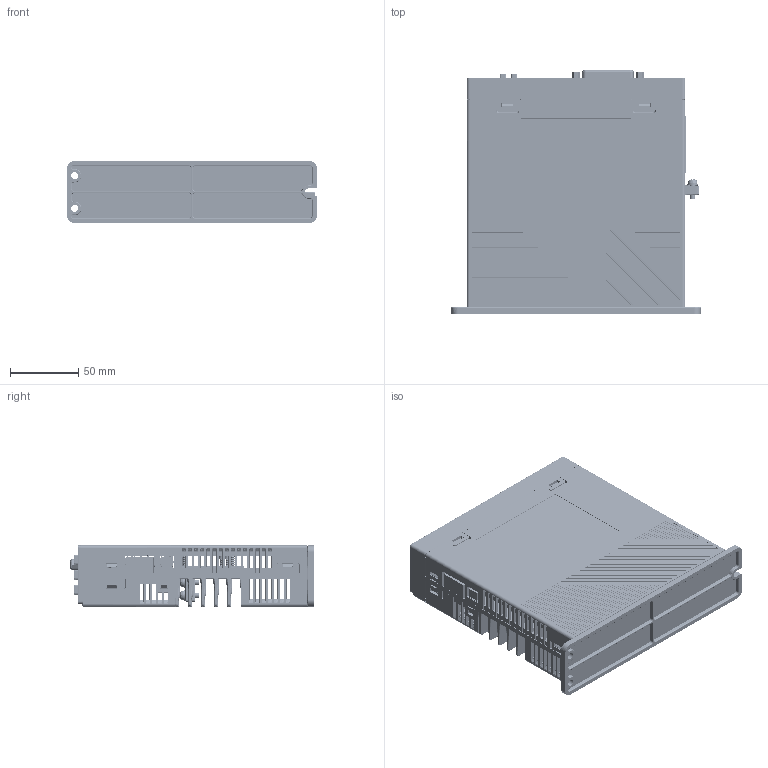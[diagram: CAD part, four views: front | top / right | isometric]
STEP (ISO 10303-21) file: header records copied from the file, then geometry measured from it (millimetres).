
FILE_DESCRIPTION((''),'2;1');
FILE_NAME('BD3E-AP_A_SW0002','2025-01-22T17:02:57',('wuyh130'),(''),'CREO PARAMETRIC BY PTC INC, 2021063','CREO PARAMETRIC BY PTC INC, 2021063','');
FILE_SCHEMA(('AUTOMOTIVE_DESIGN { 1 0 10303 214 1 1 1 1 }'));
Products named in the file (1): BD3E-AP_A_SW0002
Bounding box: 183 x 178.45 x 45 mm (x, y, z)
Surface area: 269920.9 mm2 (no closed solid volume)
Topology: 0 solids, 270 shells, 7749 faces, 26663 edges, 18823 vertices
Faces by surface type: plane 4556, cylinder 1993, bspline 503, cone 327, torus 154, extrusion 112, sphere 104
Entity records: 392383 total; most frequent: CARTESIAN_POINT 128617, ORIENTED_EDGE 44991, DIRECTION 41470, EDGE_CURVE 26635, VERTEX_POINT 18823, VECTOR 18625, LINE 18513, AXIS2_PLACEMENT_3D 11421
